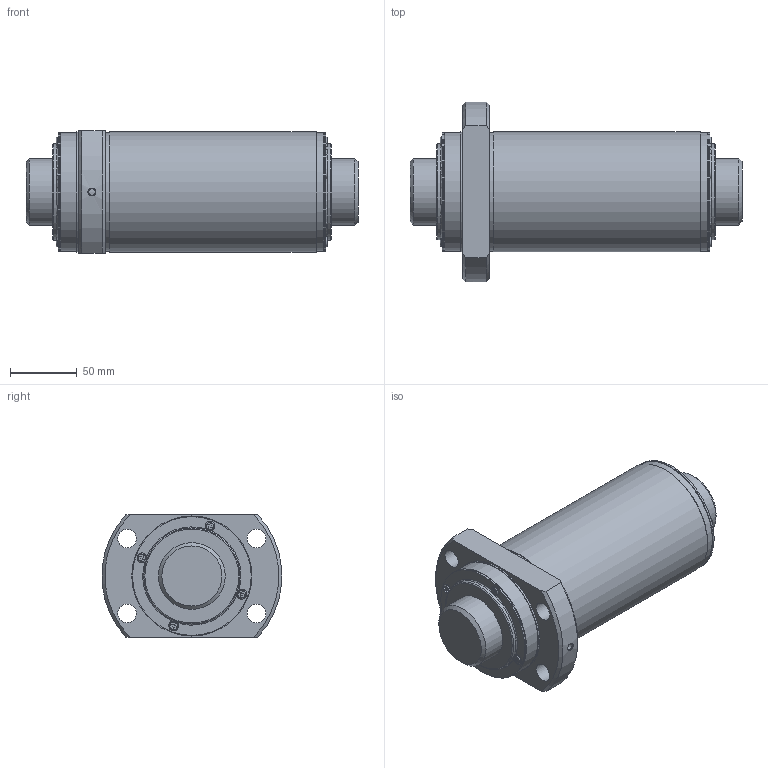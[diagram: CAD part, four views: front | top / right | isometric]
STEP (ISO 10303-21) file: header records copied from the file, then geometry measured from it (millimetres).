
FILE_DESCRIPTION(/* description */ ('STEP AP203'),/* implementation_level */ '2;1');
FILE_NAME(/* name */ 'WTF50100-3ZZ+248.8LC7T_000_rev',/* time_stamp */ '2025-06-11T06:41:56+02:00',/* author */ ('License CC BY-ND 4.0'),/* organization */ ('CADENAS'),/* preprocessor_version */ 'ST-DEVELOPER v19.3',/* originating_system */ 'PARTsolutions',/* authorisation */ ' ');
FILE_SCHEMA (('CONFIG_CONTROL_DESIGN'));
Length unit declared in the file: millimetre
Products named in the file (3): WTF50100-3ZZ+248.8LC7T_000_rev; WTF50100-30ZZ0 Shaft; WTF50100-3ZZ Nut
Assembly tree (2 placements, depth 2):
  WTF50100-3ZZ+248.8LC7T_000_rev
    WTF50100-30ZZ0 Shaft
    WTF50100-3ZZ Nut
Bounding box: 248.8 x 134.77 x 92 mm (x, y, z)
Volume: 1470605.8 mm3; surface area: 157967.1 mm2
Topology: 2 solids, 2 shells, 206 faces, 539 edges, 354 vertices
Faces by surface type: plane 127, cylinder 58, torus 12, cone 9
Full cylindrical faces by diameter (mm): 4.917 x1, 7.42 x8, 14 x4, 50 x2, 72 x2, 89 x5, 90 x2
Entity records: 6183 total; most frequent: CARTESIAN_POINT 1147, DIRECTION 1028, ORIENTED_EDGE 974, EDGE_CURVE 487, AXIS2_PLACEMENT_3D 350, VERTEX_POINT 343, LINE 328, VECTOR 328
